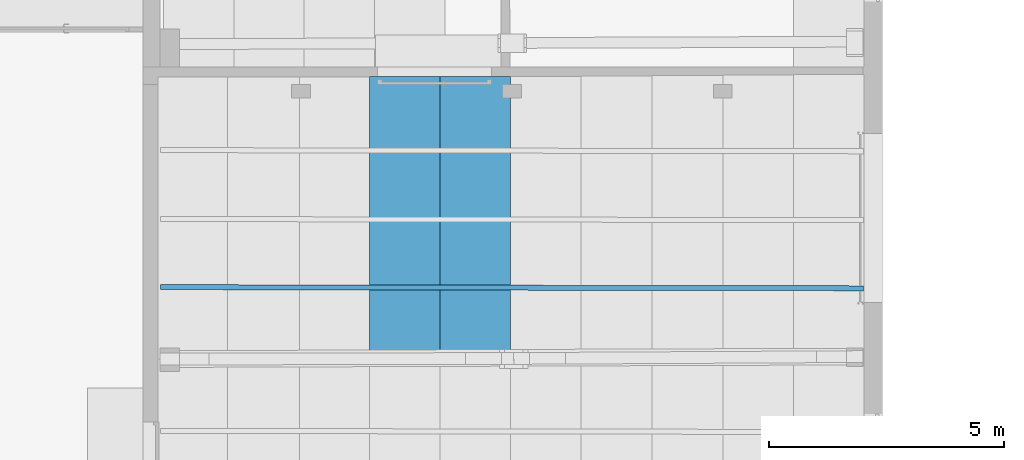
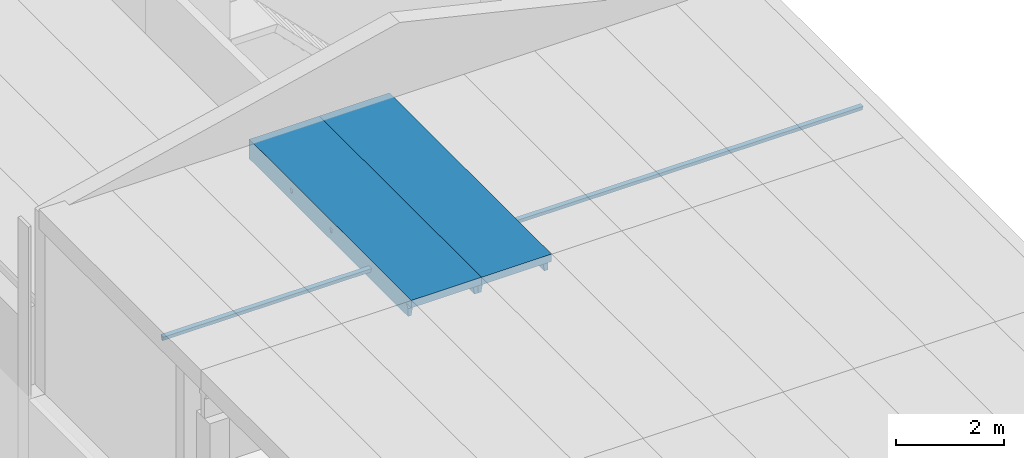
# One storey, part 54 of 301: 3 beams.
"""IFC2X3 building model written with IfcOpenShell, lengths in millimetres."""

from ifc_helpers import new_model, entity, si_unit, converted_unit, derived_unit, money_unit, direction, frame, origin_with_axes, place, context, subcontext, project, spatial, faceted_brep, material, type_object, element, save


model = new_model("IFC2X3")

# Units and contexts
model_context = context("Model", 3, precision=0.01, world=origin_with_axes(), true_north=direction((0.0, 1.0)))
body_context = subcontext(model_context, "Body", "Model", "MODEL_VIEW")
ifc_project = project(units=[si_unit("LENGTHUNIT", "METRE", prefix="MILLI"), si_unit("AREAUNIT", "SQUARE_METRE"), si_unit("VOLUMEUNIT", "CUBIC_METRE"), converted_unit("PLANEANGLEUNIT", "DEGREE", entity("IfcPlaneAngleMeasure", 0.0174532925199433), si_unit("PLANEANGLEUNIT", "RADIAN"), dimensions=[0, 0, 0, 0, 0, 0, 0]), money_unit("EUR"), converted_unit("TIMEUNIT", "Year", entity("IfcTimeMeasure", 31557600.0), si_unit("TIMEUNIT", "SECOND"), dimensions=[0, 0, 1, 0, 0, 0, 0]), si_unit("MASSUNIT", "GRAM", prefix="KILO"), si_unit("THERMODYNAMICTEMPERATUREUNIT", "DEGREE_CELSIUS"), si_unit("LUMINOUSINTENSITYUNIT", "LUMEN"), si_unit("ENERGYUNIT", "JOULE", prefix="MEGA"), derived_unit("THERMALCONDUCTANCEUNIT", [(si_unit("POWERUNIT", "WATT"), 1), (si_unit("LENGTHUNIT", "METRE"), -1), (si_unit("THERMODYNAMICTEMPERATUREUNIT", "KELVIN"), -1)]), derived_unit("SPECIFICHEATCAPACITYUNIT", [(si_unit("ENERGYUNIT", "JOULE"), 1), (si_unit("MASSUNIT", "GRAM", prefix="KILO"), -1), (si_unit("THERMODYNAMICTEMPERATUREUNIT", "KELVIN"), -1)]), derived_unit("MASSDENSITYUNIT", [(si_unit("MASSUNIT", "GRAM", prefix="KILO"), 1), (si_unit("VOLUMEUNIT", "CUBIC_METRE"), -1)])], contexts=[model_context])

# Site, building, storey
site_placement = place(None, frame((0.0, 0.0, 8650.0), z_axis=(0.0, 0.0, 1.0), x_axis=(1.0, 0.0, 0.0)))
site = spatial("IfcSite", under=ifc_project, at=site_placement, Name="43301:001:0844", CompositionType="ELEMENT")
building_placement = place(site_placement, origin_with_axes())
building = spatial("IfcBuilding", under=site, at=building_placement, Name="Kuressaare Ametikooli tuulikute mehaanikute õppekorpus", CompositionType="ELEMENT")
storey_placement = place(building_placement, origin_with_axes())
storey = spatial("IfcBuildingStorey", under=building, at=storey_placement, Name="1.korrus", CompositionType="ELEMENT", Elevation=0.0)

# Beams
ifc_material = material(Name="GENEERILINE - KONSTRUKTRIOON")
beam_type_1 = type_object("IfcBeamType", Name="Precast Double Tee 2 1500 x 440", PredefinedType="NOTDEFINED")
beam_1_placement = place(storey_placement, frame((93475.87775377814, 62109.55373370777, 7100.0), z_axis=(0.0, 0.0, 1.0), x_axis=(-1.0, 0.0, 0.0)))
element("IfcBeam", 1, at=beam_1_placement, inside=storey, type_object=beam_type_1, material=ifc_material, context=body_context, shape_type="Brep", body=[
    faceted_brep([(750.0, 0.0, -440.0001340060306), (750.0, 5889.43914893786, -440.0001340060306), (750.0, 5889.438626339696, -267.4324731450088), (750.0, 5863.846470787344, -222.3718133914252), (750.0, 5832.173788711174, -181.3563625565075), (750.0, 5821.211169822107, -169.8235046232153), (750.0, 6016.794951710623, -169.8235046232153), (750.0, 6016.794951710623, 0.0), (750.0, 0.0, 0.0), (750.0, 1616.949940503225, -175.3978342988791), (750.0, 1612.375321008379, -184.1936973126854), (750.0, 1591.635335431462, -271.7709778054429), (750.0, 1551.635281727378, -271.7709778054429), (750.0, 1530.894334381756, -184.1935020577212), (750.0, 1526.319694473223, -175.3977593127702), (750.0, 1518.120903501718, -169.8234995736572), (750.0, 1625.148798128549, -169.8234995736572), (750.0, 3079.825494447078, -184.1936973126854), (750.0, 3059.085508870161, -271.7709778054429), (750.0, 3019.085455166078, -271.7709778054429), (750.0, 2998.344507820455, -184.1935020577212), (750.0, 2993.769867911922, -175.3977593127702), (750.0, 2985.571076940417, -169.8234995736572), (750.0, 3092.598971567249, -169.8234995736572), (750.0, 3084.400113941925, -175.3978342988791), (750.0, 4509.875858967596, -271.7709778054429), (750.0, 4469.875805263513, -271.7709778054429), (750.0, 4449.13485791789, -184.1935020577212), (750.0, 4444.560218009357, -175.3977593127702), (750.0, 4436.361427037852, -169.8234995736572), (750.0, 4543.389321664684, -169.8234995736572), (750.0, 4535.19046403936, -175.3978342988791), (750.0, 4530.615844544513, -184.1936973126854), (680.0000000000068, 0.0, -440.0001340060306), (680.0000000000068, 5889.187114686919, -440.0001340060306), (648.6070035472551, 5889.073561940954, -267.4324731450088), (640.409702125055, 5863.451892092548, -222.3718133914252), (621.1429310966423, 5831.709840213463, -181.3563625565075), (638.1842783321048, 5853.997253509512, -210.1386333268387), (631.9095256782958, 5841.152070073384, -193.5336498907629), (586.8200850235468, 5820.623642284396, -169.8235046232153), (620.1516209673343, 5830.640511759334, -180.2351660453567), (604.4404036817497, 5822.730743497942, -171.9734684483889), (586.8200850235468, 6016.794951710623, -169.8235046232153), (-750.0, 6016.794951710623, -169.8235046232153), (-750.0, 6016.794951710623, 0.0), (-584.2531439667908, 6016.794951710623, -169.8235046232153), (-750.0, 0.0, 0.0), (631.9095256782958, 0.0, -193.5336498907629), (638.1842783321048, 0.0, -210.1386333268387), (-750.0, 0.0, -440.0001340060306), (-674.9999969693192, 0.0, -440.0001340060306), (-640.3274701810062, 0.0, -219.6283094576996), (-634.3038197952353, 0.0, -200.1453415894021), (-621.7526411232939, 0.0, -184.072435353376), (-604.310838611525, 0.0, -173.5057932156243), (-584.2531439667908, 0.0, -169.8234995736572), (586.8200850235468, 0.0, -169.8234995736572), (604.4404036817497, 0.0, -171.9734684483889), (620.1516209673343, 0.0, -180.2351660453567), (620.1516209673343, 1614.646881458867, -180.2351660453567), (623.651571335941, 1612.582363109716, -184.1936973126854), (610.952498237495, 1617.177792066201, -175.3978342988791), (638.1842783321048, 1606.414288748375, -210.1386333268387), (649.3962514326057, 1591.80019075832, -271.7709778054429), (631.9095256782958, 1610.356950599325, -193.5336498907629), (649.3962514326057, 1551.800137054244, -271.7709778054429), (638.1842783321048, 1537.22213998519, -210.1386333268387), (631.9095256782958, 1533.299868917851, -193.5336498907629), (623.651398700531, 1531.101376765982, -184.1935020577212), (610.9523556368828, 1526.547546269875, -175.3977593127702), (620.1516209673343, 1529.048392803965, -180.2351660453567), (586.8200850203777, 1518.388299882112, -169.8234995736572), (604.4404036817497, 1521.521665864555, -171.9734684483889), (586.8200850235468, 1625.416194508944, -169.8234995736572), (604.4404036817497, 1622.22509793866, -171.9734684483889), (649.3962514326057, 3059.25036419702, -271.7709778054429), (623.651571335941, 3080.032536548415, -184.1936973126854), (631.9095256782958, 3077.807124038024, -193.5336498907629), (638.1842783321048, 3073.864462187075, -210.1386333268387), (649.3962514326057, 3019.250310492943, -271.7709778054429), (638.1842783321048, 3004.672313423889, -210.1386333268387), (631.9095256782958, 3000.75004235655, -193.5336498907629), (623.651398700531, 2998.551550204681, -184.1935020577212), (620.1516209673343, 2996.498566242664, -180.2351660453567), (610.952355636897, 2993.997719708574, -175.3977593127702), (604.4404036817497, 2988.971839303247, -171.9734684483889), (586.8200850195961, 2985.838473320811, -169.8234995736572), (586.8200850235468, 3092.866367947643, -169.8234995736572), (610.952498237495, 3084.6279655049, -175.3978342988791), (604.4404036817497, 3089.675271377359, -171.9734684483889), (620.1516209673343, 3082.097054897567, -180.2351660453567), (649.3962514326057, 4510.040714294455, -271.7709778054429), (649.3962514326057, 4470.040660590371, -271.7709778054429), (638.1842783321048, 4455.462663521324, -210.1386333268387), (631.9095256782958, 4451.540392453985, -193.5336498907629), (623.651398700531, 4449.341900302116, -184.1935020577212), (620.1516209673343, 4447.2889163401, -180.2351660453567), (610.952355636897, 4444.788069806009, -175.3977593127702), (604.4404036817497, 4439.762189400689, -171.9734684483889), (586.8200850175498, 4436.628823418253, -169.8234995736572), (586.8200850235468, 4543.656718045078, -169.8234995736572), (604.4404036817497, 4540.465621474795, -171.9734684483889), (610.952498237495, 4535.418315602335, -175.3978342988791), (620.1516209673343, 4532.887404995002, -180.2351660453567), (623.651571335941, 4530.82288664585, -184.1936973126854), (631.9095256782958, 4528.597474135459, -193.5336498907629), (638.1842783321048, 4524.65481228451, -210.1386333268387), (-584.2531439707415, 2987.757464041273, -169.8234995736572), (-584.2531439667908, 3094.785358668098, -169.8234995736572), (-584.253143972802, 4438.547814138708, -169.8234995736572), (-584.2531439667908, 4545.575708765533, -169.8234995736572), (-584.2531439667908, 5816.407205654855, -169.8235046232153), (-584.2531439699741, 1520.307290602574, -169.8234995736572), (-584.2531439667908, 1627.335185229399, -169.8234995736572), (-750.0, 5815.810435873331, -169.8235046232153), (-750.0, 5826.773054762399, -181.3563625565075), (-750.0, 5858.445736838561, -222.3718133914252), (-750.0, 5884.037892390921, -267.4324731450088), (-750.0, 5884.038414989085, -440.0001340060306), (-750.0, 1533.352324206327, -184.1935020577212), (-750.0, 1554.093271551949, -271.7709778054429), (-750.0, 1594.093325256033, -271.7709778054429), (-750.0, 1614.83331083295, -184.1936973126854), (-750.0, 1619.407930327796, -175.3978342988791), (-750.0, 1627.60678795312, -169.8234995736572), (-750.0, 1520.578893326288, -169.8234995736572), (-750.0, 1528.777684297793, -175.3977593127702), (-750.0, 3021.543444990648, -271.7709778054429), (-750.0, 3061.543498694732, -271.7709778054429), (-750.0, 3082.283484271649, -184.1936973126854), (-750.0, 3086.858103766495, -175.3978342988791), (-750.0, 3095.056961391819, -169.8234995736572), (-750.0, 2988.029066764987, -169.8234995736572), (-750.0, 2996.227857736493, -175.3977593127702), (-750.0, 3000.802497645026, -184.1935020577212), (-750.0, 4512.333848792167, -271.7709778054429), (-750.0, 4533.073834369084, -184.1936973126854), (-750.0, 4537.648453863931, -175.3978342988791), (-750.0, 4545.847311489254, -169.8234995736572), (-750.0, 4438.819416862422, -169.8234995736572), (-750.0, 4447.018207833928, -175.3977593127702), (-750.0, 4451.59284774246, -184.1935020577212), (-750.0, 4472.333795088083, -271.7709778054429), (-674.9999969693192, 5884.308451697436, -440.0001340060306), (-640.7591234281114, 5858.839057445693, -222.3718133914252), (-640.3274701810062, 5856.722041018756, -219.6283094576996), (-640.3274701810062, 4524.502520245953, -219.6283094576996), (-648.5314139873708, 4512.167576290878, -271.7709778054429), (-648.5314139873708, 4472.167522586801, -271.7709778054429), (-640.3274701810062, 4459.805146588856, -219.6283094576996), (-640.3274701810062, 3073.712170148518, -219.6283094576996), (-648.5314139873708, 3061.377226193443, -271.7709778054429), (-648.5314139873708, 3021.377172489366, -271.7709778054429), (-640.3274701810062, 3009.014796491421, -219.6283094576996), (-640.3274701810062, 1606.261996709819, -219.6283094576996), (-648.531413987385, 1593.927052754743, -271.7709778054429), (-648.531413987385, 1553.926999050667, -271.7709778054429), (-640.3274701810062, 1541.564623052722, -219.6283094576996), (-647.848808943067, 5884.405686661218, -267.4324731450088), (-634.3038197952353, 1536.940606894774, -200.1453415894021), (-621.7526411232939, 1533.079203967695, -184.072435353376), (-621.847180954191, 1533.142325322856, -184.1935020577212), (-604.310838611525, 1525.75618796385, -173.5057932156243), (-607.4338079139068, 1528.544066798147, -175.3977593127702), (-604.310838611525, 3089.402225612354, -173.5057932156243), (-604.310838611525, 4443.996711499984, -173.5057932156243), (-604.310838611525, 5819.835206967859, -173.5057932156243), (-604.310838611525, 4540.192575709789, -173.5057932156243), (-604.310838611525, 1621.952052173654, -173.5057932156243), (-604.310838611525, 2993.20636140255, -173.5057932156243), (-617.2693620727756, 5827.250950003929, -181.3563625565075), (-621.7526411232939, 5829.332195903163, -184.072435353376), (-634.3038197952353, 5841.69871961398, -200.1453415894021), (-634.3038197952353, 1610.866067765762, -200.1453415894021), (-621.8473334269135, 1614.623312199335, -184.1936973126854), (-621.7526411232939, 1614.68622387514, -184.072435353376), (-607.4339316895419, 1619.174313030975, -175.3978342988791), (-634.3038197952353, 3078.316241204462, -200.1453415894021), (-621.8473334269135, 3082.073485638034, -184.1936973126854), (-621.7526411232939, 3082.136397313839, -184.072435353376), (-607.4339316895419, 3086.624486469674, -175.3978342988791), (-607.4338079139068, 2995.994240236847, -175.3977593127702), (-621.7526411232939, 3000.529377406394, -184.072435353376), (-621.8471809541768, 3000.592498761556, -184.1935020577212), (-634.3038197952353, 3004.390780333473, -200.1453415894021), (-634.3038197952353, 4529.106591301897, -200.1453415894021), (-621.8473334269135, 4532.863835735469, -184.1936973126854), (-621.7526411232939, 4532.926747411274, -184.072435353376), (-607.4339316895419, 4537.414836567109, -175.3978342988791), (-607.4338079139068, 4446.784590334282, -175.3977593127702), (-621.7526411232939, 4451.319727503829, -184.072435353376), (-621.8471809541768, 4451.382848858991, -184.1935020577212), (-634.3038197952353, 4455.181130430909, -200.1453415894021)], [[[0, 1, 2, 3, 4, 5, 6, 7, 8], [9, 10, 11, 12, 13, 14, 15, 16], [17, 18, 19, 20, 21, 22, 23, 24], [25, 26, 27, 28, 29, 30, 31, 32]], [[33, 34, 1, 0]], [[1, 34, 35, 2]], [[2, 35, 36, 3]], [[37, 4, 3, 36, 38, 39]], [[40, 5, 4, 37, 41, 42]], [[5, 40, 43, 6]], [[44, 45, 7, 6, 43, 46]], [[47, 8, 7, 45]], [[48, 49, 33, 0, 8, 47, 50, 51, 52, 53, 54, 55, 56, 57, 58, 59]], [[60, 61, 10, 9, 62]], [[63, 64, 11, 10, 61, 65]], [[64, 66, 12, 11]], [[13, 12, 66, 67, 68, 69]], [[70, 14, 13, 69, 71]], [[72, 15, 14, 70, 73]], [[72, 74, 16, 15]], [[75, 62, 9, 16, 74]], [[76, 18, 17, 77, 78, 79]], [[80, 19, 18, 76]], [[19, 80, 81, 82, 83, 20]], [[21, 20, 83, 84, 85]], [[22, 21, 85, 86, 87]], [[88, 23, 22, 87]], [[89, 24, 23, 88, 90]], [[77, 17, 24, 89, 91]], [[26, 25, 92, 93]], [[93, 94, 95, 96, 27, 26]], [[27, 96, 97, 98, 28]], [[28, 98, 99, 100, 29]], [[30, 29, 100, 101]], [[31, 30, 101, 102, 103]], [[32, 31, 103, 104, 105]], [[25, 32, 105, 106, 107, 92]], [[94, 93, 92, 107, 38, 36, 35, 34, 33, 49, 67, 66, 64, 63, 81, 80, 76, 79]], [[39, 38, 107, 106]], [[39, 106, 105, 104, 41, 37]], [[41, 104, 103, 102, 42]], [[40, 42, 102, 101]], [[108, 109, 110, 111, 112, 46, 43, 40, 101, 100, 88, 87, 74, 72, 57, 56, 113, 114]], [[45, 44, 115, 116, 117, 118, 119, 50, 47], [120, 121, 122, 123, 124, 125, 126, 127], [128, 129, 130, 131, 132, 133, 134, 135], [136, 137, 138, 139, 140, 141, 142, 143]], [[112, 115, 44, 46]], [[68, 67, 49, 48]], [[50, 119, 144, 51]], [[145, 146, 147, 148, 149, 150, 151, 152, 153, 154, 155, 156, 157, 158, 52, 51, 144, 159]], [[158, 160, 53, 52]], [[161, 54, 53, 160, 162]], [[163, 55, 54, 161, 164]], [[163, 113, 56, 55]], [[72, 73, 58, 57]], [[71, 59, 58, 73, 70]], [[68, 48, 59, 71, 69]], [[61, 60, 84, 83, 82, 65]], [[62, 75, 86, 85, 84, 60]], [[81, 63, 65, 82]], [[86, 75, 74, 87]], [[91, 97, 96, 95, 78, 77]], [[79, 78, 95, 94]], [[90, 88, 100, 99]], [[90, 99, 98, 97, 91, 89]], [[132, 109, 108, 133]], [[109, 165, 166, 110]], [[111, 110, 140, 139]], [[167, 112, 111, 168]], [[126, 125, 114, 113]], [[108, 114, 169, 170]], [[116, 115, 112, 167, 171]], [[171, 172, 173, 146, 145, 117, 116]], [[159, 118, 117, 145]], [[144, 119, 118, 159]], [[162, 160, 158, 157, 121, 120]], [[122, 121, 157, 156]], [[156, 155, 174, 175, 123, 122]], [[123, 175, 176, 177, 124]], [[124, 177, 169, 114, 125]], [[126, 113, 163, 164, 127]], [[127, 164, 161, 162, 120]], [[128, 153, 152, 129]], [[151, 178, 179, 130, 129, 152]], [[179, 180, 181, 131, 130]], [[181, 165, 109, 132, 131]], [[108, 170, 182, 134, 133]], [[182, 183, 184, 135, 134]], [[185, 154, 153, 128, 135, 184]], [[186, 187, 137, 136, 148, 147]], [[188, 189, 138, 137, 187]], [[168, 111, 139, 138, 189]], [[166, 190, 141, 140, 110]], [[191, 192, 142, 141, 190]], [[150, 149, 143, 142, 192, 193]], [[149, 148, 136, 143]], [[146, 173, 186, 147]], [[178, 151, 150, 193]], [[185, 174, 155, 154]], [[180, 191, 190, 166, 165, 181]], [[167, 168, 189, 188, 172, 171]], [[177, 176, 183, 182, 170, 169]], [[172, 188, 187, 186, 173]], [[175, 174, 185, 184, 183, 176]], [[178, 193, 192, 191, 180, 179]]]),
])
beam_2_placement = place(storey_placement, frame((94975.87775377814, 62112.15039970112, 7100.0), z_axis=(0.0, 0.0, 1.0), x_axis=(-1.0, 0.0, 0.0)))
element("IfcBeam", 2, at=beam_2_placement, inside=storey, type_object=beam_type_1, material=ifc_material, context=body_context, shape_type="Brep", body=[
    faceted_brep([(750.0, 0.0, -440.0001340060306), (750.0, 5886.63508098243, -440.0001340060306), (750.0, 5886.634558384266, -267.4324731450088), (750.0, 5861.042402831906, -222.3718133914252), (750.0, 5829.369720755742, -181.3563625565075), (750.0, 5818.407101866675, -169.8235046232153), (750.0, 6020.344376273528, -169.8235046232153), (750.0, 6020.344376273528, 0.0), (750.0, 0.0, 0.0), (750.0, 1622.004596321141, -175.3978342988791), (750.0, 1617.429976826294, -184.1936973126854), (750.0, 1596.689991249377, -271.7709778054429), (750.0, 1556.689937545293, -271.7709778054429), (750.0, 1535.948990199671, -184.1935020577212), (750.0, 1531.374350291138, -175.3977593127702), (750.0, 1523.175559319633, -169.8234995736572), (750.0, 1630.203453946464, -169.8234995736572), (750.0, 3084.880150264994, -184.1936973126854), (750.0, 3064.140164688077, -271.7709778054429), (750.0, 3024.140110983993, -271.7709778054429), (750.0, 3003.39916363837, -184.1935020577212), (750.0, 2998.824523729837, -175.3977593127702), (750.0, 2990.625732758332, -169.8234995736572), (750.0, 3097.653627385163, -169.8234995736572), (750.0, 3089.45476975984, -175.3978342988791), (750.0, 4514.930514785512, -271.7709778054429), (750.0, 4474.930461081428, -271.7709778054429), (750.0, 4454.189513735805, -184.1935020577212), (750.0, 4449.614873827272, -175.3977593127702), (750.0, 4441.416082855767, -169.8234995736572), (750.0, 4548.443977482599, -169.8234995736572), (750.0, 4540.245119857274, -175.3978342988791), (750.0, 4535.670500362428, -184.1936973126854), (680.0000000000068, 0.0, -440.0001340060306), (680.0000000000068, 5886.383046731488, -440.0001340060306), (648.6070035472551, 5886.269493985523, -267.4324731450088), (640.409702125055, 5860.647824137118, -222.3718133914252), (621.1429310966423, 5828.905772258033, -181.3563625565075), (638.1842783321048, 5851.193185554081, -210.1386333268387), (631.9095256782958, 5838.348002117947, -193.5336498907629), (586.8200850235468, 5817.819574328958, -169.8235046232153), (620.1516209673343, 5827.836443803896, -180.2351660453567), (604.4404036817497, 5819.926675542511, -171.9734684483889), (586.8200850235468, 6020.344376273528, -169.8235046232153), (-750.0, 6020.344376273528, -169.8235046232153), (-750.0, 6020.344376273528, 0.0), (-584.2531439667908, 6020.344376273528, -169.8235046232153), (-750.0, 0.0, 0.0), (631.9095256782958, 0.0, -193.5336498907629), (638.1842783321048, 0.0, -210.1386333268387), (-750.0, 0.0, -440.0001340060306), (-674.9999969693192, 0.0, -440.0001340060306), (-640.3274701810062, 0.0, -219.6283094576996), (-634.3038197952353, 0.0, -200.1453415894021), (-621.7526411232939, 0.0, -184.072435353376), (-604.310838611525, 0.0, -173.5057932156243), (-584.2531439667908, 0.0, -169.8234995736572), (586.8200850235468, 0.0, -169.8234995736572), (604.4404036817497, 0.0, -171.9734684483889), (620.1516209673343, 0.0, -180.2351660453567), (620.1516209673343, 1619.701537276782, -180.2351660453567), (623.651571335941, 1617.637018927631, -184.1936973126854), (610.952498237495, 1622.232447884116, -175.3978342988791), (638.1842783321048, 1611.46894456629, -210.1386333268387), (649.3962514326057, 1596.854846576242, -271.7709778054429), (631.9095256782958, 1615.41160641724, -193.5336498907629), (649.3962514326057, 1556.854792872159, -271.7709778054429), (638.1842783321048, 1542.276795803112, -210.1386333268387), (631.9095256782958, 1538.354524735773, -193.5336498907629), (623.651398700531, 1536.156032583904, -184.1935020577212), (610.9523556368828, 1531.602202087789, -175.3977593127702), (620.1516209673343, 1534.103048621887, -180.2351660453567), (586.8200850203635, 1523.442955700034, -169.8234995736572), (604.4404036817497, 1526.576321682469, -171.9734684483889), (586.8200850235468, 1630.470850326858, -169.8234995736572), (604.4404036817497, 1627.279753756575, -171.9734684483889), (649.3962514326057, 3064.305020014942, -271.7709778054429), (623.651571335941, 3085.087192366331, -184.1936973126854), (631.9095256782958, 3082.861779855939, -193.5336498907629), (638.1842783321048, 3078.919118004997, -210.1386333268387), (649.3962514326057, 3024.304966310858, -271.7709778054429), (638.1842783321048, 3009.726969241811, -210.1386333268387), (631.9095256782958, 3005.804698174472, -193.5336498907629), (623.651398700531, 3003.606206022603, -184.1935020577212), (620.1516209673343, 3001.553222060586, -180.2351660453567), (610.952355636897, 2999.052375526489, -175.3977593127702), (604.4404036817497, 2994.026495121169, -171.9734684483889), (586.8200850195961, 2990.893129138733, -169.8234995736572), (586.8200850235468, 3097.921023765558, -169.8234995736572), (610.952498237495, 3089.682621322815, -175.3978342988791), (604.4404036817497, 3094.729927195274, -171.9734684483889), (620.1516209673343, 3087.151710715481, -180.2351660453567), (649.3962514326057, 4515.095370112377, -271.7709778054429), (649.3962514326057, 4475.095316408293, -271.7709778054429), (638.1842783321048, 4460.517319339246, -210.1386333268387), (631.9095256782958, 4456.595048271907, -193.5336498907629), (623.651398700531, 4454.396556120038, -184.1935020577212), (620.1516209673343, 4452.343572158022, -180.2351660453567), (610.952355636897, 4449.842725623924, -175.3977593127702), (604.4404036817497, 4444.816845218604, -171.9734684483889), (586.8200850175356, 4441.683479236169, -169.8234995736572), (586.8200850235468, 4548.711373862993, -169.8234995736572), (604.4404036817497, 4545.52027729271, -171.9734684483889), (610.952498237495, 4540.47297142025, -175.3978342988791), (620.1516209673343, 4537.942060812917, -180.2351660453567), (623.651571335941, 4535.877542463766, -184.1936973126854), (631.9095256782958, 4533.652129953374, -193.5336498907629), (638.1842783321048, 4529.709468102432, -210.1386333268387), (-584.2531439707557, 2992.812119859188, -169.8234995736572), (-584.2531439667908, 3099.84001448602, -169.8234995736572), (-584.2531439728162, 4443.602469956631, -169.8234995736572), (-584.2531439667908, 4550.630364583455, -169.8234995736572), (-584.2531439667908, 5813.603137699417, -169.8235046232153), (-584.2531439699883, 1525.361946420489, -169.8234995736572), (-584.2531439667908, 1632.38984104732, -169.8234995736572), (-750.0, 5813.0063679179, -169.8235046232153), (-750.0, 5823.96898680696, -181.3563625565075), (-750.0, 5855.64166888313, -222.3718133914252), (-750.0, 5881.233824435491, -267.4324731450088), (-750.0, 5881.234347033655, -440.0001340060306), (-750.0, 1538.406980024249, -184.1935020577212), (-750.0, 1559.147927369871, -271.7709778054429), (-750.0, 1599.147981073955, -271.7709778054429), (-750.0, 1619.887966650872, -184.1936973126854), (-750.0, 1624.462586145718, -175.3978342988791), (-750.0, 1632.661443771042, -169.8234995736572), (-750.0, 1525.63354914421, -169.8234995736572), (-750.0, 1533.832340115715, -175.3977593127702), (-750.0, 3026.59810080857, -271.7709778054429), (-750.0, 3066.598154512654, -271.7709778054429), (-750.0, 3087.338140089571, -184.1936973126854), (-750.0, 3091.912759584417, -175.3978342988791), (-750.0, 3100.111617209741, -169.8234995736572), (-750.0, 2993.08372258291, -169.8234995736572), (-750.0, 3001.282513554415, -175.3977593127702), (-750.0, 3005.857153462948, -184.1935020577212), (-750.0, 4517.38850461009, -271.7709778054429), (-750.0, 4538.128490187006, -184.1936973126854), (-750.0, 4542.703109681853, -175.3978342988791), (-750.0, 4550.901967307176, -169.8234995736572), (-750.0, 4443.874072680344, -169.8234995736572), (-750.0, 4452.07286365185, -175.3977593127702), (-750.0, 4456.647503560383, -184.1935020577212), (-750.0, 4477.388450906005, -271.7709778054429), (-674.9999969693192, 5881.504383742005, -440.0001340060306), (-640.7591234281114, 5856.034989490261, -222.3718133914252), (-640.3274701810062, 5853.917973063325, -219.6283094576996), (-640.3274701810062, 4529.557176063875, -219.6283094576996), (-648.5314139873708, 4517.2222321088, -271.7709778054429), (-648.5314139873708, 4477.222178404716, -271.7709778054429), (-640.3274701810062, 4464.859802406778, -219.6283094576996), (-640.3274701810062, 3078.76682596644, -219.6283094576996), (-648.5314139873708, 3066.431882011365, -271.7709778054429), (-648.5314139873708, 3026.431828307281, -271.7709778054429), (-640.3274701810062, 3014.069452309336, -219.6283094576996), (-640.3274701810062, 1611.316652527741, -219.6283094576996), (-648.5314139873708, 1598.981708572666, -271.7709778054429), (-648.5314139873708, 1558.981654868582, -271.7709778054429), (-640.3274701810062, 1546.619278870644, -219.6283094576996), (-647.848808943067, 5881.601618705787, -267.4324731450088), (-634.3038197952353, 1541.995262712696, -200.1453415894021), (-621.7526411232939, 1538.133859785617, -184.072435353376), (-621.847180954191, 1538.196981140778, -184.1935020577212), (-604.310838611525, 1530.810843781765, -173.5057932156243), (-607.4338079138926, 1533.598722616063, -175.3977593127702), (-604.310838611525, 3094.456881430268, -173.5057932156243), (-604.310838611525, 4449.051367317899, -173.5057932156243), (-604.310838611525, 5817.031139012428, -173.5057932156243), (-604.310838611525, 4545.247231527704, -173.5057932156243), (-604.310838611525, 1627.006707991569, -173.5057932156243), (-604.310838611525, 2998.261017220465, -173.5057932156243), (-617.2693620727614, 5824.446882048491, -181.3563625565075), (-621.7526411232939, 5826.528127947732, -184.072435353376), (-634.3038197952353, 5838.894651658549, -200.1453415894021), (-634.3038197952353, 1615.920723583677, -200.1453415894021), (-621.8473334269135, 1619.67796801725, -184.1936973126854), (-621.7526411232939, 1619.740879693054, -184.072435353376), (-607.4339316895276, 1624.22896884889, -175.3978342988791), (-634.3038197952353, 3083.370897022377, -200.1453415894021), (-621.8473334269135, 3087.128141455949, -184.1936973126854), (-621.7526411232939, 3087.191053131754, -184.072435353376), (-607.4339316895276, 3091.679142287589, -175.3978342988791), (-607.4338079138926, 3001.048896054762, -175.3977593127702), (-621.7526411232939, 3005.584033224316, -184.072435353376), (-621.8471809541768, 3005.647154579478, -184.1935020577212), (-634.3038197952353, 3009.445436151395, -200.1453415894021), (-634.3038197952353, 4534.161247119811, -200.1453415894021), (-621.8473334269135, 4537.918491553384, -184.1936973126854), (-621.7526411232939, 4537.981403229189, -184.072435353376), (-607.4339316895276, 4542.469492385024, -175.3978342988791), (-607.4338079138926, 4451.839246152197, -175.3977593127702), (-621.7526411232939, 4456.374383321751, -184.072435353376), (-621.8471809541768, 4456.437504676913, -184.1935020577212), (-634.3038197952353, 4460.235786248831, -200.1453415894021)], [[[0, 1, 2, 3, 4, 5, 6, 7, 8], [9, 10, 11, 12, 13, 14, 15, 16], [17, 18, 19, 20, 21, 22, 23, 24], [25, 26, 27, 28, 29, 30, 31, 32]], [[33, 34, 1, 0]], [[1, 34, 35, 2]], [[2, 35, 36, 3]], [[37, 4, 3, 36, 38, 39]], [[40, 5, 4, 37, 41, 42]], [[5, 40, 43, 6]], [[44, 45, 7, 6, 43, 46]], [[47, 8, 7, 45]], [[48, 49, 33, 0, 8, 47, 50, 51, 52, 53, 54, 55, 56, 57, 58, 59]], [[60, 61, 10, 9, 62]], [[63, 64, 11, 10, 61, 65]], [[64, 66, 12, 11]], [[13, 12, 66, 67, 68, 69]], [[70, 14, 13, 69, 71]], [[72, 15, 14, 70, 73]], [[72, 74, 16, 15]], [[75, 62, 9, 16, 74]], [[76, 18, 17, 77, 78, 79]], [[80, 19, 18, 76]], [[19, 80, 81, 82, 83, 20]], [[21, 20, 83, 84, 85]], [[22, 21, 85, 86, 87]], [[88, 23, 22, 87]], [[89, 24, 23, 88, 90]], [[77, 17, 24, 89, 91]], [[26, 25, 92, 93]], [[93, 94, 95, 96, 27, 26]], [[27, 96, 97, 98, 28]], [[28, 98, 99, 100, 29]], [[30, 29, 100, 101]], [[31, 30, 101, 102, 103]], [[32, 31, 103, 104, 105]], [[25, 32, 105, 106, 107, 92]], [[94, 93, 92, 107, 38, 36, 35, 34, 33, 49, 67, 66, 64, 63, 81, 80, 76, 79]], [[39, 38, 107, 106]], [[39, 106, 105, 104, 41, 37]], [[41, 104, 103, 102, 42]], [[40, 42, 102, 101]], [[108, 109, 110, 111, 112, 46, 43, 40, 101, 100, 88, 87, 74, 72, 57, 56, 113, 114]], [[45, 44, 115, 116, 117, 118, 119, 50, 47], [120, 121, 122, 123, 124, 125, 126, 127], [128, 129, 130, 131, 132, 133, 134, 135], [136, 137, 138, 139, 140, 141, 142, 143]], [[112, 115, 44, 46]], [[68, 67, 49, 48]], [[50, 119, 144, 51]], [[145, 146, 147, 148, 149, 150, 151, 152, 153, 154, 155, 156, 157, 158, 52, 51, 144, 159]], [[158, 160, 53, 52]], [[161, 54, 53, 160, 162]], [[163, 55, 54, 161, 164]], [[163, 113, 56, 55]], [[72, 73, 58, 57]], [[71, 59, 58, 73, 70]], [[68, 48, 59, 71, 69]], [[61, 60, 84, 83, 82, 65]], [[62, 75, 86, 85, 84, 60]], [[81, 63, 65, 82]], [[86, 75, 74, 87]], [[91, 97, 96, 95, 78, 77]], [[79, 78, 95, 94]], [[90, 88, 100, 99]], [[90, 99, 98, 97, 91, 89]], [[132, 109, 108, 133]], [[109, 165, 166, 110]], [[111, 110, 140, 139]], [[167, 112, 111, 168]], [[126, 125, 114, 113]], [[108, 114, 169, 170]], [[116, 115, 112, 167, 171]], [[171, 172, 173, 146, 145, 117, 116]], [[159, 118, 117, 145]], [[144, 119, 118, 159]], [[162, 160, 158, 157, 121, 120]], [[122, 121, 157, 156]], [[156, 155, 174, 175, 123, 122]], [[123, 175, 176, 177, 124]], [[124, 177, 169, 114, 125]], [[126, 113, 163, 164, 127]], [[127, 164, 161, 162, 120]], [[128, 153, 152, 129]], [[151, 178, 179, 130, 129, 152]], [[179, 180, 181, 131, 130]], [[181, 165, 109, 132, 131]], [[108, 170, 182, 134, 133]], [[182, 183, 184, 135, 134]], [[185, 154, 153, 128, 135, 184]], [[186, 187, 137, 136, 148, 147]], [[188, 189, 138, 137, 187]], [[168, 111, 139, 138, 189]], [[166, 190, 141, 140, 110]], [[191, 192, 142, 141, 190]], [[150, 149, 143, 142, 192, 193]], [[149, 148, 136, 143]], [[146, 173, 186, 147]], [[178, 151, 150, 193]], [[185, 174, 155, 154]], [[180, 191, 190, 166, 165, 181]], [[167, 168, 189, 188, 172, 171]], [[177, 176, 183, 182, 170, 169]], [[172, 188, 187, 186, 173]], [[175, 174, 185, 184, 183, 176]], [[178, 193, 192, 191, 180, 179]]]),
])
beam_type_2 = type_object("IfcBeamType", Name="Precast Single Tee 2 107 x 102", PredefinedType="NOTDEFINED")
beam_3_placement = place(storey_placement, frame((88271.97381961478, 57626.97679305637, 6930.176500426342), z_axis=(0.0, 0.0, 1.0), x_axis=(-0.001638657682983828, -0.9999986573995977, 0.0)))
element("IfcBeam", 3, at=beam_3_placement, inside=storey, type_object=beam_type_2, material=ifc_material, context=body_context, shape_type="Brep", body=[
    faceted_brep([(45.31502884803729, 0.0, -5.574334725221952), (45.31502884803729, 14968.77585727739, -5.574334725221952), (53.51387546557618, 14968.77585727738, 0.0), (53.51387546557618, 0.0, 0.0), (40.74041549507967, 0.0, -14.37019773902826), (40.74041549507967, 14968.77585727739, -14.37019773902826), (20.00045776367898, 14968.77585727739, -101.9474782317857), (-19.99954223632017, 14968.77585727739, -101.9474782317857), (-40.74046173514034, 14968.77585727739, -14.37000248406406), (-45.31509550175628, 14968.77585727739, -5.574259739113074), (-53.51387546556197, 14968.77585727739, 0.0), (-53.51387546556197, 0.0, 0.0), (-45.31509550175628, 0.0, -5.574259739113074), (-40.74046173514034, 0.0, -14.37000248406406), (-19.99954223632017, 0.0, -101.9474782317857), (20.00045776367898, 0.0, -101.9474782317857)], [[[0, 1, 2, 3]], [[4, 5, 1, 0]], [[2, 1, 5, 6, 7, 8, 9, 10]], [[3, 2, 10, 11]], [[4, 0, 3, 11, 12, 13, 14, 15]], [[15, 6, 5, 4]], [[14, 7, 6, 15]], [[13, 8, 7, 14]], [[12, 9, 8, 13]], [[11, 10, 9, 12]]]),
])

save(model, "model.ifc")
